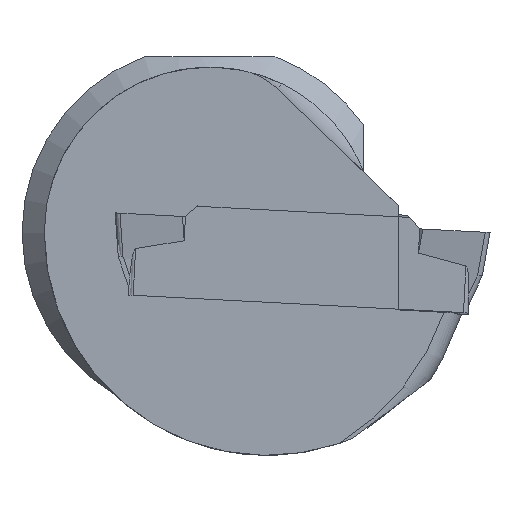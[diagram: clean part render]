
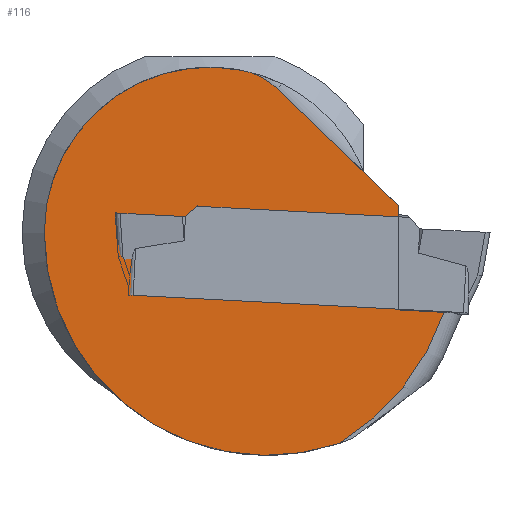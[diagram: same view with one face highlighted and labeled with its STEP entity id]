
A CAD part, left-side view. The second image highlights one B-rep face of the part: STEP entity #116.
In plain terms, the highlighted planar face has unit normal (-1, 0, 0).
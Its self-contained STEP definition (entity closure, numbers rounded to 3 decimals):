
#80=PLANE('',#1138);
#116=ADVANCED_FACE('',(#193),#80,.F.);
#193=FACE_OUTER_BOUND('',#251,.T.);
#251=EDGE_LOOP('',(#359,#360,#361,#362,#363,#364,#365));
#326=CIRCLE('',#1128,7.05);
#331=CIRCLE('',#1135,3.);
#332=CIRCLE('',#1136,9.5);
#333=CIRCLE('',#1137,10.55);
#359=ORIENTED_EDGE('',*,*,#775,.T.);
#360=ORIENTED_EDGE('',*,*,#776,.T.);
#361=ORIENTED_EDGE('',*,*,#777,.T.);
#362=ORIENTED_EDGE('',*,*,#778,.F.);
#363=ORIENTED_EDGE('',*,*,#761,.T.);
#364=ORIENTED_EDGE('',*,*,#779,.T.);
#365=ORIENTED_EDGE('',*,*,#780,.T.);
#657=VERTEX_POINT('',#1532);
#659=VERTEX_POINT('',#1535);
#671=VERTEX_POINT('',#1573);
#672=VERTEX_POINT('',#1574);
#673=VERTEX_POINT('',#1576);
#674=VERTEX_POINT('',#1578);
#675=VERTEX_POINT('',#1581);
#761=EDGE_CURVE('',#659,#657,#326,.T.);
#775=EDGE_CURVE('',#671,#672,#925,.T.);
#776=EDGE_CURVE('',#672,#673,#926,.T.);
#777=EDGE_CURVE('',#673,#674,#927,.T.);
#778=EDGE_CURVE('',#659,#674,#331,.T.);
#779=EDGE_CURVE('',#657,#675,#332,.T.);
#780=EDGE_CURVE('',#675,#671,#333,.T.);
#925=LINE('',#1572,#1021);
#926=LINE('',#1575,#1022);
#927=LINE('',#1577,#1023);
#1021=VECTOR('',#1254,1.);
#1022=VECTOR('',#1255,1.);
#1023=VECTOR('',#1256,1.);
#1128=AXIS2_PLACEMENT_3D('',#1534,#1233,#1234);
#1135=AXIS2_PLACEMENT_3D('',#1579,#1257,#1258);
#1136=AXIS2_PLACEMENT_3D('',#1580,#1259,#1260);
#1137=AXIS2_PLACEMENT_3D('',#1582,#1261,#1262);
#1138=AXIS2_PLACEMENT_3D('',#1583,#1263,#1264);
#1233=DIRECTION('',(-1.,0.,0.));
#1234=DIRECTION('',(0.,0.,-1.));
#1254=DIRECTION('',(0.,0.999,0.052));
#1255=DIRECTION('',(0.,0.,1.));
#1256=DIRECTION('',(0.,0.719,0.695));
#1257=DIRECTION('',(1.,0.,0.));
#1258=DIRECTION('',(0.,0.,1.));
#1259=DIRECTION('',(-1.,0.,0.));
#1260=DIRECTION('',(0.,0.,-1.));
#1261=DIRECTION('',(-1.,0.,0.));
#1262=DIRECTION('',(0.,0.,-1.));
#1263=DIRECTION('',(1.,0.,0.));
#1264=DIRECTION('',(0.,0.,-1.));
#1532=CARTESIAN_POINT('',(0.25,19.,0.));
#1534=CARTESIAN_POINT('',(0.25,11.95,0.));
#1535=CARTESIAN_POINT('',(0.25,10.549,6.909));
#1572=CARTESIAN_POINT('',(0.25,7.114,-3.13));
#1573=CARTESIAN_POINT('',(0.25,1.963,-3.4));
#1574=CARTESIAN_POINT('',(0.25,3.9,-3.299));
#1575=CARTESIAN_POINT('',(0.25,3.9,0.243));
#1576=CARTESIAN_POINT('',(0.25,3.9,1.143));
#1577=CARTESIAN_POINT('',(0.25,3.9,1.143));
#1578=CARTESIAN_POINT('',(0.25,9.061,6.127));
#1579=CARTESIAN_POINT('',(0.25,11.145,3.969));
#1580=CARTESIAN_POINT('',(0.25,9.5,0.));
#1581=CARTESIAN_POINT('',(0.25,6.429,-8.99));
#1582=CARTESIAN_POINT('',(0.25,11.95,0.));
#1583=CARTESIAN_POINT('',(0.25,6.95,0.));
